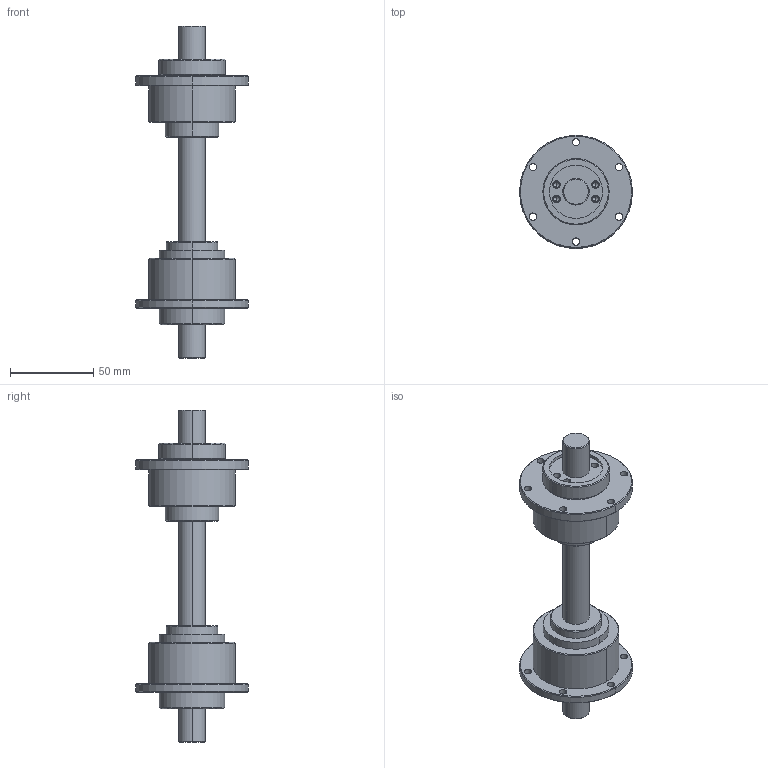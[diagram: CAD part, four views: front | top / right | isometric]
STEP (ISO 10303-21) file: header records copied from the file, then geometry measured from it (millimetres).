
FILE_DESCRIPTION (( 'STEP AP203' ), '1' );
FILE_NAME ('RBBY1616.STEP', '2014-12-08T10:02:39', ( '' ), ( '' ), 'SwSTEP 2.0', 'SolidWorks 2014', '' );
FILE_SCHEMA (( 'CONFIG_CONTROL_DESIGN' ));
Length unit declared in the file: millimetre
Products named in the file (4): RBBY1616; SC16; RFBY1616; RLBF16
Assembly tree (3 placements, depth 2):
  RBBY1616
    SC16
    RFBY1616
    RLBF16
Bounding box: 68 x 68 x 200 mm (x, y, z)
Volume: 197211 mm3; surface area: 50323.1 mm2
Topology: 5 solids, 5 shells, 183 faces, 434 edges, 264 vertices
Faces by surface type: cylinder 114, cone 44, plane 23, torus 2
Entity records: 5690 total; most frequent: DIRECTION 1048, CARTESIAN_POINT 867, ORIENTED_EDGE 828, AXIS2_PLACEMENT_3D 445, EDGE_CURVE 414, VERTEX_POINT 264, CIRCLE 256, EDGE_LOOP 238
